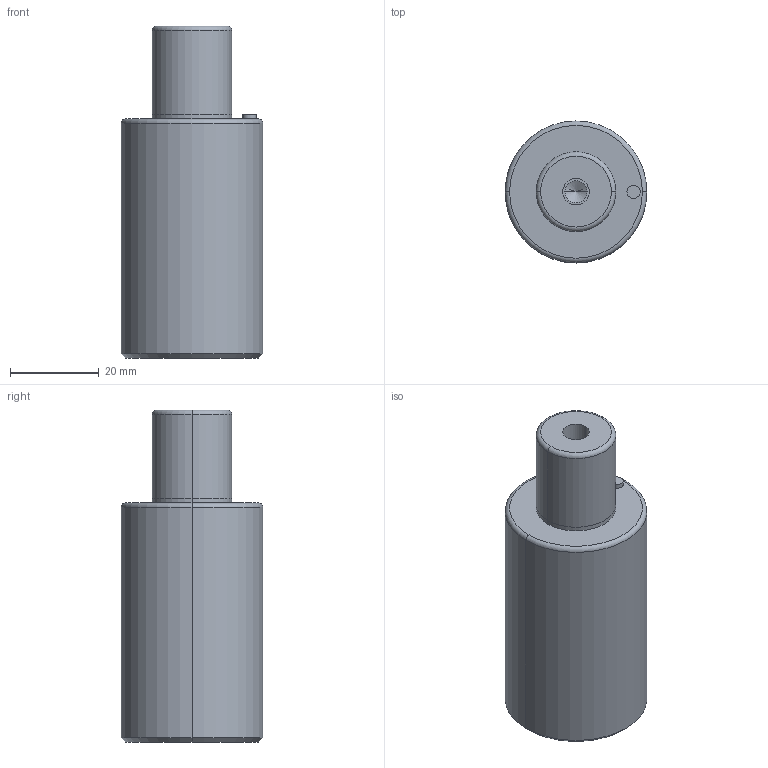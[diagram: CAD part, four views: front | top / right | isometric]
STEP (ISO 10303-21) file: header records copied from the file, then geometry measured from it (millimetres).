
FILE_DESCRIPTION(/* description */ (''),/* implementation_level */ '2;1');
FILE_NAME(/* name */ '3d_gsc32-20_03823_r00.stp',/* time_stamp */ '2011-01-10T14:15:22+09:00',/* author */ ('MISUMI'),/* organization */ (''),/* preprocessor_version */ 'ST-DEVELOPER v11',/* originating_system */ 'UGS - NX 5.0',/* authorisation */ '');
FILE_SCHEMA (('CONFIG_CONTROL_DESIGN'));
Length unit declared in the file: millimetre
Products named in the file (1): 3d_gsc32-20_03823_r00
Bounding box: 32 x 32 x 75 mm (x, y, z)
Volume: 48108.9 mm3; surface area: 8507.5 mm2
Topology: 1 solids, 1 shells, 32 faces, 66 edges, 38 vertices
Faces by surface type: cylinder 16, cone 6, plane 6, torus 4
Entity records: 912 total; most frequent: DIRECTION 168, CARTESIAN_POINT 133, ORIENTED_EDGE 124, AXIS2_PLACEMENT_3D 73, EDGE_CURVE 62, CIRCLE 40, EDGE_LOOP 38, VERTEX_POINT 38
